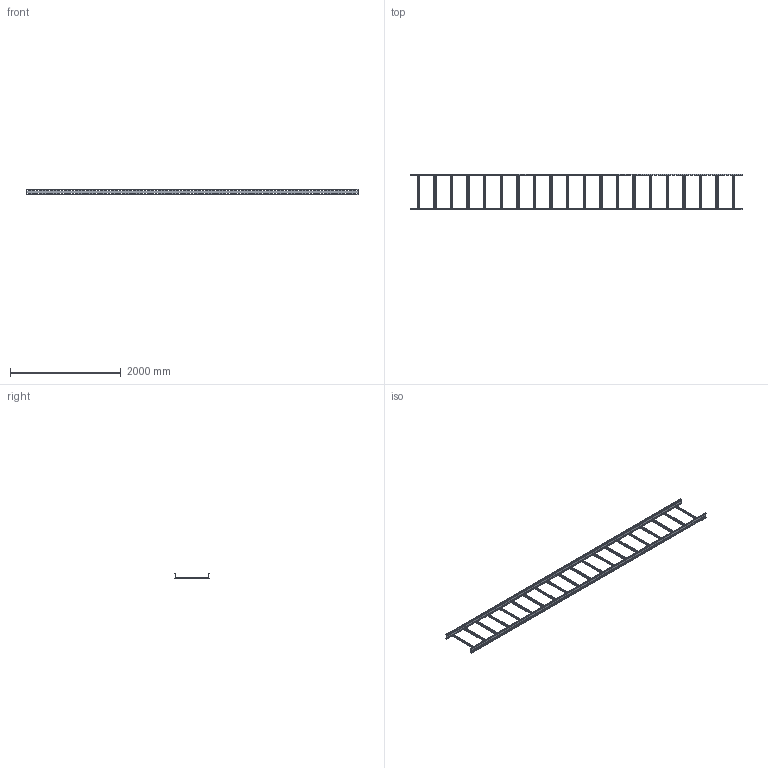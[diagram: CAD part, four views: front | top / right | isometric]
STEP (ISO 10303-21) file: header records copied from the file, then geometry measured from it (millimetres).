
FILE_DESCRIPTION(/* description */ ('','CAx-IF Rec.Pracs.---Representation and Presentation of Product Manufacturing Information (PMI)---4.0---2014-10-13'),/* implementation_level */ '2;1');
FILE_NAME(/* name */ 'Eurostrut_ECL100-600-6_Cable Ladder.step',/* time_stamp */ '2026-09-03T11:57:07+02:00',/* author */ (''),/* organization */ (''),/* preprocessor_version */ 'ST-DEVELOPER v20.1',/* originating_system */ 'Autodesk Revit 2027 27.2.0.39',/* authorisation */ '');
FILE_SCHEMA (('AP242_MANAGED_MODEL_BASED_3D_ENGINEERING_MIM_LF { 1 0 10303 442 2 1 4 }'));
Products named in the file (4): TopLevelAssembly; 60mm; 60mm_1; Cable Ladder Rung_Slotted
Assembly tree (22 placements, depth 2):
  TopLevelAssembly
    60mm
    60mm_1
    Cable Ladder Rung_Slotted  x20
Bounding box: 6000 x 646 x 100 mm (x, y, z)
Volume: 5160819.9 mm3; surface area: 5812489.5 mm2
Topology: 22 solids, 22 shells, 4740 faces, 14088 edges, 9392 vertices
Faces by surface type: plane 3436, bspline 1200, cylinder 104
Entity records: 73888 total; most frequent: CARTESIAN_POINT 14556, ORIENTED_EDGE 12672, DIRECTION 10680, EDGE_CURVE 6336, LINE 6160, VECTOR 6160, VERTEX_POINT 4224, EDGE_LOOP 3138
